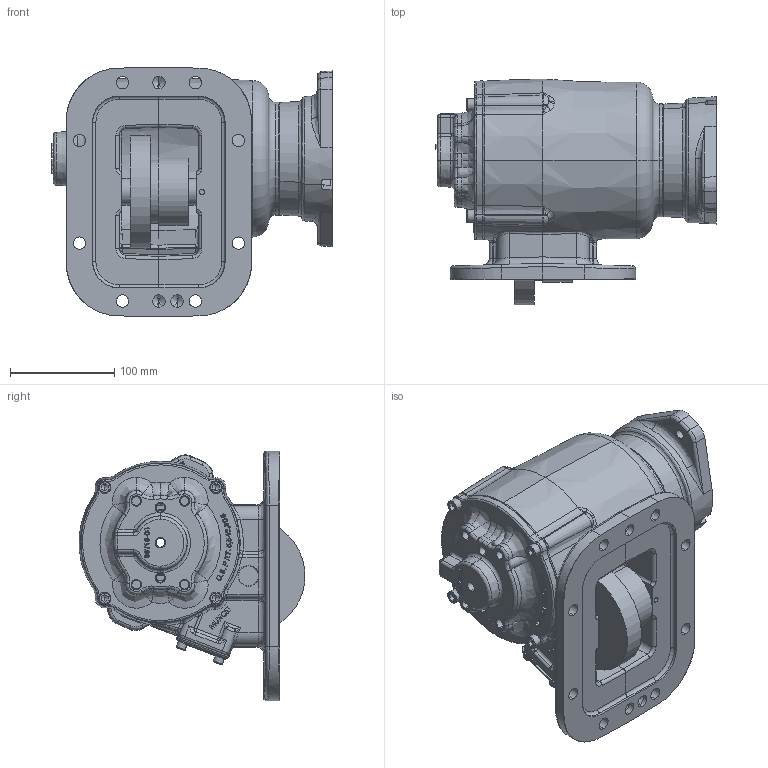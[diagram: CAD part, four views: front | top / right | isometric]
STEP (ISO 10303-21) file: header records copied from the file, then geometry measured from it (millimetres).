
FILE_DESCRIPTION (( 'STEP AP203' ), '1' );
FILE_NAME ('CS8S-XXXXX-X36X.STEP', '2012-06-11T14:08:34', ( '' ), ( '' ), 'SwSTEP 2.0', 'SolidWorks 2012', '' );
FILE_SCHEMA (( 'CONFIG_CONTROL_DESIGN' ));
Products named in the file (3): CS8S-XXXXX-X36X; 14T38981; CS8S-XXXXX-X3XX
Assembly tree (2 placements, depth 2):
  CS8S-XXXXX-X36X
    CS8S-XXXXX-X3XX
    14T38981
Bounding box: 268.87 x 216.55 x 239.61 mm (x, y, z)
Volume: 1951678.9 mm3; surface area: 460827.1 mm2
Topology: 3 solids, 14 shells, 2198 faces, 5561 edges, 3439 vertices
Faces by surface type: bspline 838, plane 546, cylinder 436, cone 288, torus 82, sphere 8
Entity records: 109631 total; most frequent: CARTESIAN_POINT 62549, ORIENTED_EDGE 10972, DIRECTION 7702, EDGE_CURVE 5486, VERTEX_POINT 3439, AXIS2_PLACEMENT_3D 2769, EDGE_LOOP 2435, ADVANCED_FACE 2198
